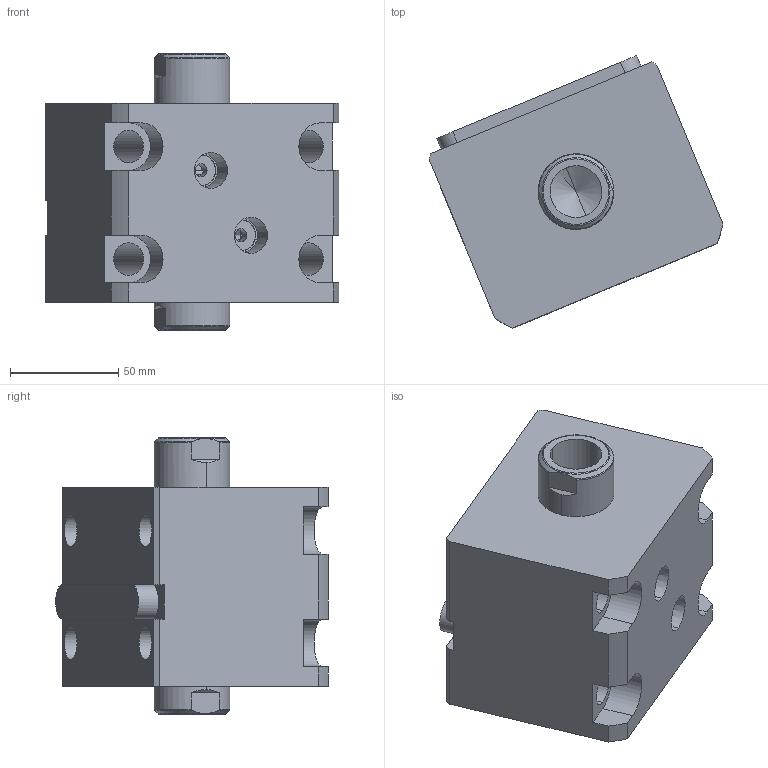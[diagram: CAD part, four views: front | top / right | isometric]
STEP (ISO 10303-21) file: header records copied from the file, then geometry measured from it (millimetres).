
FILE_DESCRIPTION (( 'STEP AP214' ), '1' );
FILE_NAME ('chtb-lw63x10n_asm.STEP', '2018-05-03T04:08:47', ( 'Windows' ), ( 'Microsoft' ), 'SwSTEP 2.0', 'SolidWorks 2015', '' );
FILE_SCHEMA (( 'AUTOMOTIVE_DESIGN' ));
Length unit declared in the file: millimetre
Products named in the file (5): CHTB-SW63X10NHSG; CHTB-LW63X10NBT; CHTB-LA63PJ; CHTB-63QG; chtb-lw63x10n_asm
Assembly tree (4 placements, depth 2):
  chtb-lw63x10n_asm
    CHTB-63QG
    CHTB-LA63PJ
    CHTB-LW63X10NBT
    CHTB-SW63X10NHSG
Bounding box: 135.77 x 126.06 x 128 mm (x, y, z)
Volume: 846964.8 mm3; surface area: 138816.8 mm2
Topology: 4 solids, 4 shells, 194 faces, 563 edges, 381 vertices
Faces by surface type: cylinder 104, plane 50, cone 16, bspline 12, torus 12
Entity records: 18887 total; most frequent: CARTESIAN_POINT 13868, ORIENTED_EDGE 1110, DIRECTION 876, EDGE_CURVE 555, VERTEX_POINT 381, AXIS2_PLACEMENT_3D 336, EDGE_LOOP 222, VECTOR 204
